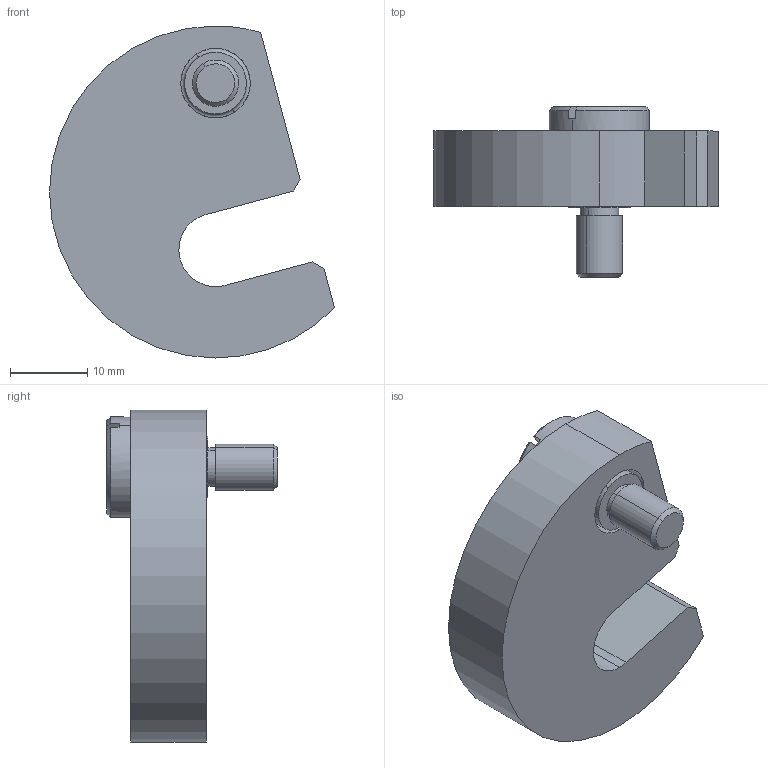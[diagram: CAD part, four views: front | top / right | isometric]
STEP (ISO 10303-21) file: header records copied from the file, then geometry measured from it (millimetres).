
FILE_DESCRIPTION (( 'STEP AP203' ), '1' );
FILE_NAME ('3662.W008.step', '2009-12-03T10:14:08', ( 'Wixroyd' ), ( 'Wixroyd' ), 'SwSTEP 2.0', 'SolidWorks 2009', '' );
FILE_SCHEMA (( 'CONFIG_CONTROL_DESIGN' ));
Length unit declared in the file: millimetre
Products named in the file (3): Part2_3670W006; Part1_3662W008; 3662.W008
Assembly tree (2 placements, depth 2):
  3662.W008
    Part2_3670W006
    Part1_3662W008
Bounding box: 36.91 x 22.1 x 43 mm (x, y, z)
Volume: 10484.1 mm3; surface area: 4570.8 mm2
Topology: 2 solids, 2 shells, 38 faces, 89 edges, 58 vertices
Faces by surface type: plane 17, cylinder 15, cone 4, torus 2
Entity records: 1416 total; most frequent: DIRECTION 213, CARTESIAN_POINT 202, ORIENTED_EDGE 178, EDGE_CURVE 89, AXIS2_PLACEMENT_3D 85, VERTEX_POINT 58, EDGE_LOOP 43, VECTOR 43
